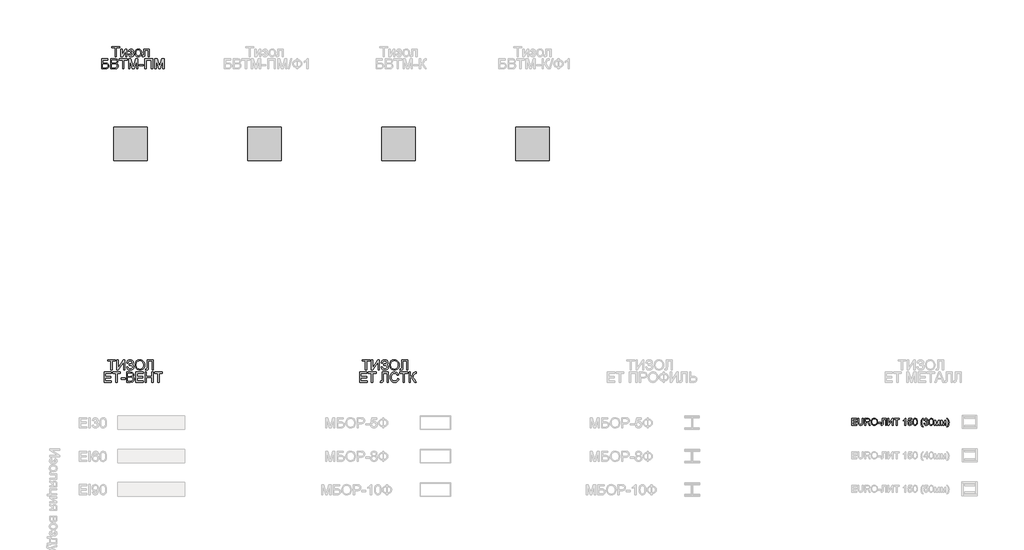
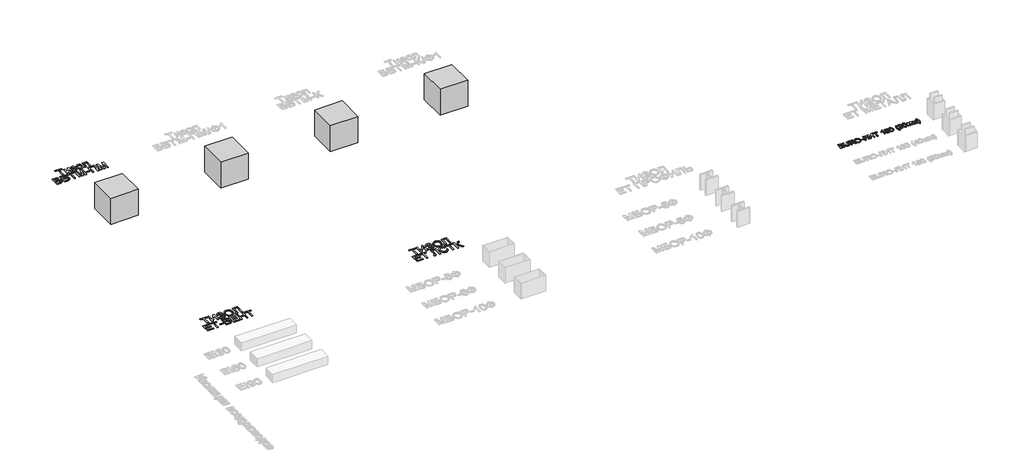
# One storey, part 17 of 35: 8 proxies.
"""IFC4 building model written with IfcOpenShell, lengths in millimetres."""

from ifc_helpers import new_model, si_unit, origin, origin_with_axes, place, context, project, spatial, polyline, outline, extrude, transform, mapped, element, save
from components import generic_models_0168a45e

model = new_model("IFC4")

# Units and contexts
model_context = context("Model", 3, world=origin())
ifc_project = project(units=[si_unit("LENGTHUNIT", "METRE", prefix="MILLI")], contexts=[model_context])

# Site, building, storey
site = spatial("IfcSite", under=ifc_project)
building = spatial("IfcBuilding", under=site)
storey = spatial("IfcBuildingStorey", under=building, Name="Этаж 01", Elevation=0.0)

# Proxies
placement = place(None, origin())
element("IfcBuildingElementProxy", 1, Name="600 мм Arial", ObjectType="600 мм Arial", at=placement, inside=storey, context=model_context, shape_type="SweptSolid", body=[
    extrude(outline(polyline([(1437.6102066, -38214.5066797), (1437.6102066, -37950.8088656), (1338.7235263, -37950.8088656), (1338.7235263, -37913.1377493), (1574.1680032, -37913.1377493), (1574.1680032, -37950.8088656), (1475.2813229, -37950.8088656), (1475.2813229, -38214.5066797), (1437.6102066, -38214.5066797)])), origin_with_axes(), (0.0, 0.0, 1.0), 20.0),
    extrude(outline(polyline([(1611.8391195, -37993.1888714), (1649.5102358, -37993.1888714), (1649.5102358, -38161.9731308), (1742.0693458, -37993.1888714), (1790.776922, -37993.1888714), (1790.776922, -38214.5066797), (1753.1058056, -38214.5066797), (1753.1058056, -38046.7524899), (1661.1353069, -38214.5066797), (1611.8391195, -38214.5066797), (1611.8391195, -37993.1888714)])), origin_with_axes(), (0.0, 0.0, 1.0), 20.0),
    extrude(outline(polyline([(1899.0813813, -38115.6199994), (1899.0813813, -38077.9488831), (1928.8062465, -38076.4773551), (1943.8158319, -38068.6414686), (1949.1133327, -38061.2930258), (1950.8791663, -38052.2707199), (1948.5155244, -38041.5561567), (1941.424599, -38033.2512207), (1930.5996713, -38027.9261288), (1917.0340227, -38026.1510982), (1903.3212213, -38027.9169318), (1891.834106, -38033.2144325), (1882.5726768, -38042.0436004), (1875.5369336, -38054.4044354), (1833.1569278, -38049.6955459), (1844.3957227, -38022.9137366), (1861.4838414, -38003.7838729), (1884.4212838, -37992.3059546), (1913.2080499, -37988.4799819), (1944.6987487, -37993.1428862), (1968.537502, -38007.131599), (1983.5470874, -38027.595035), (1988.5502826, -38051.6821087), (1986.7706534, -38064.0429437), (1981.431766, -38075.0794036), (1972.5336202, -38084.7914882), (1960.0762161, -38093.1791977), (1974.616752, -38103.6454405), (1984.9818272, -38116.650069), (1991.1898359, -38132.2298715), (1993.2591721, -38150.4216362), (1988.0076566, -38178.1507416), (1972.2531102, -38200.1224937), (1947.0623906, -38214.4423004), (1913.5023555, -38219.2155693), (1880.6780845, -38214.8009853), (1855.5609413, -38201.5572335), (1838.1509259, -38179.4843138), (1828.4480383, -38148.5822262), (1870.8280441, -38143.8733367), (1877.1740085, -38159.802627), (1887.8241923, -38171.6852155), (1901.5461907, -38179.0796436), (1917.1075991, -38181.544453), (1932.2643373, -38179.1808111), (1944.6251723, -38172.0898857), (1952.8473349, -38161.3201403), (1955.5880558, -38147.9200386), (1953.8866016, -38137.306643), (1948.7822389, -38128.1279873), (1934.2876883, -38117.5329858), (1906.4390212, -38115.3992702), (1899.0813813, -38115.6199994)])), origin_with_axes(), (0.0, 0.0, 1.0), 20.0),
    extrude(outline(polyline([(2030.9302884, -38103.8477756), (2032.967435, -38075.1851696), (2039.0788746, -38050.4864922), (2049.2646073, -38029.7517432), (2063.5246332, -38012.9809228), (2077.881228, -38002.2617611), (2093.727745, -37994.6052171), (2111.064184, -37990.0112907), (2129.8905451, -37988.4799819), (2150.6735786, -37990.3446838), (2169.4654507, -37995.9387893), (2186.2661616, -38005.2622987), (2201.0757112, -38018.3152117), (2213.162934, -38034.6560701), (2221.7966646, -38053.8434154), (2226.9769029, -38075.8772476), (2228.703649, -38100.7575668), (2225.6502285, -38138.8149592), (2216.4899668, -38167.7856663), (2201.4895784, -38189.481507), (2180.9157778, -38205.7143), (2156.4792163, -38215.840252), (2129.8905451, -38219.2155693), (2108.804009, -38217.3577652), (2089.8373929, -38211.784353), (2072.9906968, -38202.4953326), (2058.2639206, -38189.4907041), (2046.3054565, -38172.9911966), (2037.7636965, -38153.2175393), (2032.6386404, -38130.1697323), (2030.9302884, -38103.8477756)]), holes=[polyline([(2068.6014047, -38103.7741992), (2072.9608064, -38137.8676631), (2086.0390113, -38162.1570718), (2105.720698, -38176.6976077), (2129.8905451, -38181.544453), (2153.9500276, -38176.6700165), (2173.5949261, -38162.0467072), (2186.6731311, -38137.4354017), (2191.0325327, -38102.5969768), (2186.6455399, -38069.4967943), (2173.4845615, -38045.5384793), (2153.8120718, -38030.9979435), (2129.8905451, -38026.1510982), (2105.720698, -38030.9795494), (2086.0390113, -38045.4649029), (2072.9608064, -38069.6991294), (2068.6014047, -38103.7741992)])]), origin_with_axes(), (0.0, 0.0, 1.0), 20.0),
    extrude(outline(polyline([(2289.919213, -37993.1888714), (2459.4392364, -37993.1888714), (2459.4392364, -38214.2859505), (2421.7681201, -38214.2859505), (2421.7681201, -38030.8599877), (2327.5903293, -38030.8599877), (2327.5903293, -38136.4421204), (2325.0519435, -38185.1496965), (2320.2970688, -38196.1769593), (2311.1092159, -38205.7143), (2297.1664883, -38212.3085848), (2278.1469892, -38214.5066797), (2247.5392072, -38212.5936934), (2247.5392072, -38176.8355634), (2264.3882025, -38176.8355634), (2281.4211389, -38174.5179069), (2288.2269558, -38167.1602669), (2289.919213, -38134.3084048), (2289.919213, -37993.1888714)])), origin_with_axes(), (0.0, 0.0, 1.0), 20.0),
    extrude(outline(polyline([(1032.6457063, -38279.0622028), (1221.0012878, -38279.0622028), (1221.0012878, -38316.7333191), (1070.3168226, -38316.7333191), (1070.3168226, -38406.2022203), (1140.8765893, -38406.2022203), (1175.9541375, -38408.1152067), (1203.0486465, -38413.8541658), (1223.8523733, -38424.9090198), (1240.0575752, -38442.7696907), (1250.4870297, -38465.7623154), (1253.9635146, -38492.2130308), (1251.4895082, -38514.4239063), (1244.0674889, -38535.1448597), (1231.734245, -38553.2906391), (1214.5265647, -38567.7759926), (1187.9838788, -38577.2673481), (1147.645618, -38580.4311333), (1032.6457063, -38580.4311333), (1032.6457063, -38279.0622028)]), holes=[polyline([(1070.3168226, -38542.760017), (1151.0301323, -38542.760017), (1179.5593811, -38539.6514141), (1199.9584377, -38530.3256055), (1212.2089081, -38514.7825912), (1216.2923983, -38493.0223712), (1213.9563476, -38476.8171693), (1206.9481956, -38463.5182352), (1195.77378, -38453.6589977), (1180.9389385, -38447.7728858), (1124.1747467, -38443.8733367), (1070.3168226, -38443.8733367), (1070.3168226, -38542.760017)])]), origin_with_axes(), (0.0, 0.0, 1.0), 20.0),
    extrude(outline(polyline([(1305.7612995, -38580.4311333), (1305.7612995, -38279.0622028), (1420.7612112, -38279.0622028), (1452.3898657, -38281.2786918), (1477.0839447, -38287.9281589), (1496.0114733, -38299.1761509), (1510.340477, -38315.1882147), (1519.362783, -38334.0237729), (1522.3702183, -38353.7422478), (1519.8410296, -38371.8880272), (1512.2534634, -38388.9485548), (1499.5523375, -38403.8753667), (1481.6824696, -38415.6199994), (1503.0288224, -38426.7668239), (1518.8017629, -38443.7261839), (1528.5414387, -38465.3760393), (1531.7879973, -38490.59435), (1529.5715083, -38511.609609), (1522.9220413, -38531.0981577), (1512.9984244, -38547.6712416), (1500.9594862, -38559.9401061), (1486.2166152, -38568.8244563), (1468.1812004, -38575.2439971), (1419.8782944, -38580.4311333), (1305.7612995, -38580.4311333)]), holes=[polyline([(1343.4324158, -38401.4933308), (1412.2263489, -38401.4933308), (1452.3990628, -38398.2559693), (1466.4613521, -38392.67336), (1476.5689099, -38384.3132416), (1482.6665539, -38373.3043729), (1484.699102, -38359.7755126), (1482.8045097, -38346.6421253), (1477.1207329, -38335.2009953), (1467.9052889, -38326.2706598), (1455.4156951, -38320.6696565), (1407.0024246, -38316.7333191), (1343.4324158, -38316.7333191), (1343.4324158, -38401.4933308)]), polyline([(1343.4324158, -38542.760017), (1420.6876348, -38542.760017), (1448.6466664, -38541.288489), (1472.3014787, -38533.0847205), (1487.9732517, -38516.3460897), (1492.5809737, -38504.5186836), (1494.116881, -38490.962232), (1492.3142593, -38475.2168826), (1486.9063939, -38461.6788252), (1477.4610237, -38451.0930208), (1463.5458872, -38444.2044304), (1443.8366094, -38440.4244429), (1417.0088149, -38439.1644471), (1343.4324158, -38439.1644471), (1343.4324158, -38542.760017)])]), origin_with_axes(), (0.0, 0.0, 1.0), 20.0),
    extrude(outline(polyline([(1658.9280149, -38580.4311333), (1658.9280149, -38316.7333191), (1560.0413346, -38316.7333191), (1560.0413346, -38279.0622028), (1795.4858115, -38279.0622028), (1795.4858115, -38316.7333191), (1696.5991312, -38316.7333191), (1696.5991312, -38580.4311333), (1658.9280149, -38580.4311333)])), origin_with_axes(), (0.0, 0.0, 1.0), 20.0),
    extrude(outline(polyline([(1837.8658173, -38580.4311333), (1837.8658173, -38279.0622028), (1902.6866249, -38279.0622028), (1964.3436473, -38491.4772668), (1976.7780587, -38535.8438354), (1990.2425397, -38487.7984469), (2050.8694925, -38279.0622028), (2115.6903001, -38279.0622028), (2115.6903001, -38580.4311333), (2078.0191838, -38580.4311333), (2078.0191838, -38316.7333191), (2002.3090692, -38580.4311333), (1951.2470482, -38580.4311333), (1875.5369336, -38316.7333191), (1875.5369336, -38580.4311333), (1837.8658173, -38580.4311333)])), origin_with_axes(), (0.0, 0.0, 1.0), 20.0),
    extrude(outline(polyline([(2158.0703059, -38490.962232), (2158.0703059, -38453.2911157), (2275.7925444, -38453.2911157), (2275.7925444, -38490.962232), (2158.0703059, -38490.962232)])), origin_with_axes(), (0.0, 0.0, 1.0), 20.0),
    extrude(outline(polyline([(2322.8814398, -38279.0622028), (2558.3259167, -38279.0622028), (2558.3259167, -38580.4311333), (2520.6548004, -38580.4311333), (2520.6548004, -38316.7333191), (2360.5525561, -38316.7333191), (2360.5525561, -38580.4311333), (2322.8814398, -38580.4311333), (2322.8814398, -38279.0622028)])), origin_with_axes(), (0.0, 0.0, 1.0), 20.0),
    extrude(outline(polyline([(2624.2503702, -38580.4311333), (2624.2503702, -38279.0622028), (2689.0711778, -38279.0622028), (2750.7282002, -38491.4772668), (2763.1626116, -38535.8438354), (2776.6270926, -38487.7984469), (2837.2540454, -38279.0622028), (2902.074853, -38279.0622028), (2902.074853, -38580.4311333), (2864.4037367, -38580.4311333), (2864.4037367, -38316.7333191), (2788.6936221, -38580.4311333), (2737.6316011, -38580.4311333), (2661.9214865, -38316.7333191), (2661.9214865, -38580.4311333), (2624.2503702, -38580.4311333)])), origin_with_axes(), (0.0, 0.0, 1.0), 20.0),
])
element("IfcBuildingElementProxy", 2, Name="600 мм Arial", ObjectType="600 мм Arial", at=placement, inside=storey, context=model_context, shape_type="SweptSolid", body=[
    extrude(outline(polyline([(1312.8246338, -47580.4053349), (1312.8246338, -47316.7075208), (1213.9379535, -47316.7075208), (1213.9379535, -47279.0364045), (1449.3824304, -47279.0364045), (1449.3824304, -47316.7075208), (1350.4957501, -47316.7075208), (1350.4957501, -47580.4053349), (1312.8246338, -47580.4053349)])), origin_with_axes(), (0.0, 0.0, 1.0), 20.0),
    extrude(outline(polyline([(1491.7624363, -47279.0364045), (1529.4335526, -47279.0364045), (1529.4335526, -47517.7182429), (1687.1813521, -47279.0364045), (1727.2069132, -47279.0364045), (1727.2069132, -47580.4053349), (1689.5357969, -47580.4053349), (1689.5357969, -47342.385684), (1532.1558793, -47580.4053349), (1491.7624363, -47580.4053349), (1491.7624363, -47279.0364045)])), origin_with_axes(), (0.0, 0.0, 1.0), 20.0),
    extrude(outline(polyline([(1779.0046981, -47495.6453232), (1816.6758144, -47486.2275442), (1824.6312626, -47506.6174037), (1839.8155919, -47527.0256574), (1861.6769795, -47542.3387455), (1889.6636023, -47547.4431081), (1918.018107, -47543.6079383), (1939.6587654, -47532.102429), (1953.3715668, -47515.1706601), (1957.9425006, -47495.056712), (1952.9485025, -47473.9862708), (1937.9665082, -47457.7166895), (1914.3760753, -47447.3148261), (1883.5567611, -47443.8475383), (1863.7647098, -47443.8475383), (1863.7647098, -47406.176422), (1906.402233, -47403.1230014), (1920.2989754, -47397.696742), (1932.4850665, -47387.5248048), (1940.9831406, -47374.1247032), (1943.8158319, -47359.0139502), (1940.0450415, -47341.272841), (1928.7326701, -47326.0149353), (1910.9823639, -47315.5027072), (1887.8977687, -47311.9986312), (1867.0296625, -47314.6933669), (1849.4541002, -47322.7775737), (1835.9896192, -47335.3131527), (1827.4547569, -47351.3620047), (1821.384704, -47377.9230848), (1783.7135876, -47368.5053057), (1795.4168336, -47327.3025222), (1804.8311638, -47311.1157144), (1816.6206321, -47297.8719626), (1830.7852386, -47287.5712668), (1847.3249831, -47280.2136269), (1866.2398658, -47275.7990429), (1887.5298867, -47274.3275149), (1908.0416072, -47275.8565245), (1926.313846, -47280.4435531), (1942.3466032, -47288.0886008), (1956.1398788, -47298.7916676), (1967.2292217, -47311.541078), (1975.1501809, -47325.3251565), (1979.9027564, -47340.1439031), (1981.4869483, -47355.9973179), (1979.0221389, -47375.8215589), (1971.6277108, -47393.2821581), (1959.3036639, -47408.3791154), (1942.0499984, -47421.112431), (1963.000878, -47430.7601363), (1980.2361495, -47447.0481117), (1991.76925, -47468.5784054), (1995.6136169, -47493.9530661), (1993.7696084, -47512.5839898), (1988.2375829, -47529.6284225), (1979.0175404, -47545.0863641), (1966.1094809, -47558.9578146), (1950.1571978, -47570.4012439), (1931.8044848, -47578.575122), (1911.0513418, -47583.4794488), (1887.8977687, -47585.1142245), (1849.6932235, -47579.5224181), (1833.3362703, -47572.5326602), (1818.80953, -47562.7469991), (1806.1130026, -47550.1654349), (1795.2466882, -47534.7879675), (1779.0046981, -47495.6453232)])), origin_with_axes(), (0.0, 0.0, 1.0), 20.0),
    extrude(outline(polyline([(2033.2847332, -47433.6939952), (2035.7955278, -47398.345134), (2043.3279116, -47367.0521718), (2055.8818847, -47339.8151086), (2073.457447, -47316.6339444), (2095.0015364, -47298.1248815), (2119.4610905, -47284.9041223), (2146.8361095, -47276.9716668), (2177.1265933, -47274.3275149), (2216.6555137, -47279.2939219), (2252.1009439, -47294.1931427), (2281.5315035, -47317.9767137), (2303.015812, -47349.5961711), (2316.1491993, -47387.5248048), (2320.526995, -47430.2359045), (2315.919273, -47473.5172212), (2302.096107, -47511.9792838), (2279.8208522, -47543.6539236), (2249.8568637, -47566.5729719), (2214.7149361, -47580.4789113), (2176.9058641, -47585.1142245), (2136.7699384, -47579.9914677), (2101.1221731, -47564.6231973), (2071.7651899, -47540.3981679), (2050.5016105, -47508.7051341), (2037.5889525, -47472.2388313), (2033.2847332, -47433.6939952)]), holes=[polyline([(2070.9558495, -47434.0618772), (2072.8389454, -47459.0364662), (2078.4882333, -47481.2059549), (2087.9037131, -47500.5703434), (2101.0853849, -47517.1296317), (2117.108945, -47530.3917777), (2135.0500901, -47539.864739), (2154.90882, -47545.5485159), (2176.6851349, -47547.4431081), (2198.8339303, -47545.5301218), (2218.927185, -47539.7911626), (2236.9648991, -47530.2262308), (2252.9470725, -47516.8353262), (2266.0321752, -47499.9265499), (2275.3786771, -47479.8080033), (2280.9865783, -47456.4796863), (2282.8558787, -47429.9415989), (2279.6553053, -47396.593096), (2270.0535853, -47367.7695417), (2254.2990388, -47344.1975029), (2232.6399864, -47326.6035464), (2206.5111677, -47315.64986), (2177.3473225, -47311.9986312), (2156.327465, -47313.757567), (2136.8251207, -47319.0343744), (2118.8402897, -47327.8290533), (2102.3729719, -47340.1416039), (2088.6279808, -47356.5652357), (2078.8101301, -47377.6931585), (2072.9194196, -47403.5253724), (2070.9558495, -47434.0618772)])]), origin_with_axes(), (0.0, 0.0, 1.0), 20.0),
    extrude(outline(polyline([(2395.8692276, -47279.0364045), (2579.5159196, -47279.0364045), (2579.5159196, -47580.4053349), (2541.8448033, -47580.4053349), (2541.8448033, -47316.7075208), (2433.5403439, -47316.7075208), (2433.5403439, -47470.4821948), (2429.1625482, -47539.0921869), (2422.3843224, -47558.479568), (2410.8052366, -47573.0109068), (2394.9495226, -47582.088395), (2375.3414123, -47585.1142245), (2344.0714427, -47580.4053349), (2348.7803322, -47542.7342186), (2366.80655, -47547.4431081), (2379.5444641, -47544.9139194), (2388.6219523, -47537.3263533), (2394.0574088, -47520.3577963), (2395.8692276, -47489.6856349), (2395.8692276, -47279.0364045)])), origin_with_axes(), (0.0, 0.0, 1.0), 20.0),
    extrude(outline(polyline([(1107.9879389, -47946.3297885), (1107.9879389, -47644.960858), (1324.5968577, -47644.960858), (1324.5968577, -47682.6319743), (1145.6590552, -47682.6319743), (1145.6590552, -47772.1008755), (1315.1790786, -47772.1008755), (1315.1790786, -47809.7719918), (1145.6590552, -47809.7719918), (1145.6590552, -47908.6586721), (1329.3057472, -47908.6586721), (1329.3057472, -47946.3297885), (1107.9879389, -47946.3297885)])), origin_with_axes(), (0.0, 0.0, 1.0), 20.0),
    extrude(outline(polyline([(1461.1546543, -47946.3297885), (1461.1546543, -47682.6319743), (1362.267974, -47682.6319743), (1362.267974, -47644.960858), (1597.7124509, -47644.960858), (1597.7124509, -47682.6319743), (1498.8257706, -47682.6319743), (1498.8257706, -47946.3297885), (1461.1546543, -47946.3297885)])), origin_with_axes(), (0.0, 0.0, 1.0), 20.0),
    extrude(outline(polyline([(1616.548009, -47856.8608872), (1616.548009, -47819.1897709), (1734.2702475, -47819.1897709), (1734.2702475, -47856.8608872), (1616.548009, -47856.8608872)])), origin_with_axes(), (0.0, 0.0, 1.0), 20.0),
    extrude(outline(polyline([(1781.3591429, -47946.3297885), (1781.3591429, -47644.960858), (1896.3590546, -47644.960858), (1927.9877091, -47647.177347), (1952.681788, -47653.8268141), (1971.6093167, -47665.0748061), (1985.9383204, -47681.0868699), (1994.9606263, -47699.9224281), (1997.9680616, -47719.640903), (1995.4388729, -47737.7866824), (1987.8513068, -47754.84721), (1975.1501809, -47769.7740219), (1957.280313, -47781.5186546), (1978.6266657, -47792.6654791), (1994.3996063, -47809.624839), (2004.1392821, -47831.2746945), (2007.3858407, -47856.4930052), (2005.1693517, -47877.5082642), (1998.5198846, -47896.9968129), (1988.5962678, -47913.5698968), (1976.5573295, -47925.8387613), (1961.8144586, -47934.7231115), (1943.7790437, -47941.1426523), (1895.4761378, -47946.3297885), (1781.3591429, -47946.3297885)]), holes=[polyline([(1819.0302592, -47767.391986), (1887.8241923, -47767.391986), (1927.9969062, -47764.1546244), (1942.0591954, -47758.5720152), (1952.1667532, -47750.2118968), (1958.2643973, -47739.2030281), (1960.2969453, -47725.6741677), (1958.4023531, -47712.5407805), (1952.7185762, -47701.0996505), (1943.5031323, -47692.169315), (1931.0135385, -47686.5683117), (1882.6002679, -47682.6319743), (1819.0302592, -47682.6319743), (1819.0302592, -47767.391986)]), polyline([(1819.0302592, -47908.6586721), (1896.2854782, -47908.6586721), (1924.2445098, -47907.1871442), (1947.8993221, -47898.9833757), (1963.5710951, -47882.2447449), (1968.1788171, -47870.4173387), (1969.7147244, -47856.8608872), (1967.9121026, -47841.1155378), (1962.5042373, -47827.5774804), (1953.0588671, -47816.991676), (1939.1437306, -47810.1030856), (1919.4344527, -47806.3230981), (1892.6066582, -47805.0631023), (1819.0302592, -47805.0631023), (1819.0302592, -47908.6586721)])]), origin_with_axes(), (0.0, 0.0, 1.0), 20.0),
    extrude(outline(polyline([(2059.1836256, -47946.3297885), (2059.1836256, -47644.960858), (2275.7925444, -47644.960858), (2275.7925444, -47682.6319743), (2096.8547419, -47682.6319743), (2096.8547419, -47772.1008755), (2266.3747653, -47772.1008755), (2266.3747653, -47809.7719918), (2096.8547419, -47809.7719918), (2096.8547419, -47908.6586721), (2280.5014339, -47908.6586721), (2280.5014339, -47946.3297885), (2059.1836256, -47946.3297885)])), origin_with_axes(), (0.0, 0.0, 1.0), 20.0),
    extrude(outline(polyline([(2337.0081084, -47946.3297885), (2337.0081084, -47644.960858), (2374.6792247, -47644.960858), (2374.6792247, -47767.391986), (2534.781469, -47767.391986), (2534.781469, -47644.960858), (2572.4525853, -47644.960858), (2572.4525853, -47946.3297885), (2534.781469, -47946.3297885), (2534.781469, -47805.0631023), (2374.6792247, -47805.0631023), (2374.6792247, -47946.3297885), (2337.0081084, -47946.3297885)])), origin_with_axes(), (0.0, 0.0, 1.0), 20.0),
    extrude(outline(polyline([(2713.7192715, -47946.3297885), (2713.7192715, -47682.6319743), (2614.8325911, -47682.6319743), (2614.8325911, -47644.960858), (2850.2770681, -47644.960858), (2850.2770681, -47682.6319743), (2751.3903878, -47682.6319743), (2751.3903878, -47946.3297885), (2713.7192715, -47946.3297885)])), origin_with_axes(), (0.0, 0.0, 1.0), 20.0),
])
element("IfcBuildingElementProxy", 3, Name="600 мм Arial", ObjectType="600 мм Arial", at=placement, inside=storey, context=model_context, shape_type="SweptSolid", body=[
    extrude(outline(polyline([(8912.8246338, -47580.4053349), (8912.8246338, -47316.7075208), (8813.9379535, -47316.7075208), (8813.9379535, -47279.0364045), (9049.3824304, -47279.0364045), (9049.3824304, -47316.7075208), (8950.4957501, -47316.7075208), (8950.4957501, -47580.4053349), (8912.8246338, -47580.4053349)])), origin_with_axes(), (0.0, 0.0, 1.0), 20.0),
    extrude(outline(polyline([(9091.7624363, -47279.0364045), (9129.4335526, -47279.0364045), (9129.4335526, -47517.7182429), (9287.1813521, -47279.0364045), (9327.2069132, -47279.0364045), (9327.2069132, -47580.4053349), (9289.5357969, -47580.4053349), (9289.5357969, -47342.385684), (9132.1558793, -47580.4053349), (9091.7624363, -47580.4053349), (9091.7624363, -47279.0364045)])), origin_with_axes(), (0.0, 0.0, 1.0), 20.0),
    extrude(outline(polyline([(9379.0046981, -47495.6453232), (9416.6758144, -47486.2275442), (9424.6312626, -47506.6174037), (9439.8155919, -47527.0256574), (9461.6769795, -47542.3387455), (9489.6636023, -47547.4431081), (9518.018107, -47543.6079383), (9539.6587654, -47532.102429), (9553.3715668, -47515.1706601), (9557.9425006, -47495.056712), (9552.9485025, -47473.9862708), (9537.9665082, -47457.7166895), (9514.3760753, -47447.3148261), (9483.5567611, -47443.8475383), (9463.7647098, -47443.8475383), (9463.7647098, -47406.176422), (9506.402233, -47403.1230014), (9520.2989754, -47397.696742), (9532.4850665, -47387.5248048), (9540.9831406, -47374.1247032), (9543.8158319, -47359.0139502), (9540.0450415, -47341.272841), (9528.7326701, -47326.0149353), (9510.9823639, -47315.5027072), (9487.8977687, -47311.9986312), (9467.0296625, -47314.6933669), (9449.4541002, -47322.7775737), (9435.9896192, -47335.3131527), (9427.4547569, -47351.3620047), (9421.384704, -47377.9230848), (9383.7135876, -47368.5053057), (9395.4168336, -47327.3025222), (9404.8311638, -47311.1157144), (9416.6206321, -47297.8719626), (9430.7852386, -47287.5712668), (9447.3249831, -47280.2136269), (9466.2398658, -47275.7990429), (9487.5298867, -47274.3275149), (9508.0416072, -47275.8565245), (9526.313846, -47280.4435531), (9542.3466032, -47288.0886008), (9556.1398788, -47298.7916676), (9567.2292217, -47311.541078), (9575.1501809, -47325.3251565), (9579.9027564, -47340.1439031), (9581.4869483, -47355.9973179), (9579.0221389, -47375.8215589), (9571.6277108, -47393.2821581), (9559.3036639, -47408.3791154), (9542.0499984, -47421.112431), (9563.000878, -47430.7601363), (9580.2361495, -47447.0481117), (9591.76925, -47468.5784054), (9595.6136169, -47493.9530661), (9593.7696084, -47512.5839898), (9588.2375829, -47529.6284225), (9579.0175404, -47545.0863641), (9566.1094809, -47558.9578146), (9550.1571978, -47570.4012439), (9531.8044848, -47578.575122), (9511.0513418, -47583.4794488), (9487.8977687, -47585.1142245), (9449.6932235, -47579.5224181), (9433.3362703, -47572.5326602), (9418.80953, -47562.7469991), (9406.1130026, -47550.1654349), (9395.2466882, -47534.7879675), (9379.0046981, -47495.6453232)])), origin_with_axes(), (0.0, 0.0, 1.0), 20.0),
    extrude(outline(polyline([(9633.2847332, -47433.6939952), (9635.7955278, -47398.345134), (9643.3279116, -47367.0521718), (9655.8818847, -47339.8151086), (9673.457447, -47316.6339444), (9695.0015364, -47298.1248815), (9719.4610905, -47284.9041223), (9746.8361095, -47276.9716668), (9777.1265933, -47274.3275149), (9816.6555137, -47279.2939219), (9852.1009439, -47294.1931427), (9881.5315035, -47317.9767137), (9903.015812, -47349.5961711), (9916.1491993, -47387.5248048), (9920.526995, -47430.2359045), (9915.919273, -47473.5172212), (9902.096107, -47511.9792838), (9879.8208522, -47543.6539236), (9849.8568637, -47566.5729719), (9814.7149361, -47580.4789113), (9776.9058641, -47585.1142245), (9736.7699384, -47579.9914677), (9701.1221731, -47564.6231973), (9671.7651899, -47540.3981679), (9650.5016105, -47508.7051341), (9637.5889525, -47472.2388313), (9633.2847332, -47433.6939952)]), holes=[polyline([(9670.9558495, -47434.0618772), (9672.8389454, -47459.0364662), (9678.4882333, -47481.2059549), (9687.9037131, -47500.5703434), (9701.0853849, -47517.1296317), (9717.108945, -47530.3917777), (9735.0500901, -47539.864739), (9754.90882, -47545.5485159), (9776.6851349, -47547.4431081), (9798.8339303, -47545.5301218), (9818.927185, -47539.7911626), (9836.9648991, -47530.2262308), (9852.9470725, -47516.8353262), (9866.0321752, -47499.9265499), (9875.3786771, -47479.8080033), (9880.9865783, -47456.4796863), (9882.8558787, -47429.9415989), (9879.6553053, -47396.593096), (9870.0535853, -47367.7695417), (9854.2990388, -47344.1975029), (9832.6399864, -47326.6035464), (9806.5111677, -47315.64986), (9777.3473225, -47311.9986312), (9756.327465, -47313.757567), (9736.8251207, -47319.0343744), (9718.8402897, -47327.8290533), (9702.3729719, -47340.1416039), (9688.6279808, -47356.5652357), (9678.8101301, -47377.6931585), (9672.9194196, -47403.5253724), (9670.9558495, -47434.0618772)])]), origin_with_axes(), (0.0, 0.0, 1.0), 20.0),
    extrude(outline(polyline([(9995.8692276, -47279.0364045), (10179.5159196, -47279.0364045), (10179.5159196, -47580.4053349), (10141.8448033, -47580.4053349), (10141.8448033, -47316.7075208), (10033.5403439, -47316.7075208), (10033.5403439, -47470.4821948), (10029.1625482, -47539.0921869), (10022.3843224, -47558.479568), (10010.8052366, -47573.0109068), (9994.9495226, -47582.088395), (9975.3414123, -47585.1142245), (9944.0714427, -47580.4053349), (9948.7803322, -47542.7342186), (9966.80655, -47547.4431081), (9979.5444641, -47544.9139194), (9988.6219523, -47537.3263533), (9994.0574088, -47520.3577963), (9995.8692276, -47489.6856349), (9995.8692276, -47279.0364045)])), origin_with_axes(), (0.0, 0.0, 1.0), 20.0),
    extrude(outline(polyline([(8738.5957209, -47946.3297885), (8738.5957209, -47644.960858), (8955.2046397, -47644.960858), (8955.2046397, -47682.6319743), (8776.2668372, -47682.6319743), (8776.2668372, -47772.1008755), (8945.7868606, -47772.1008755), (8945.7868606, -47809.7719918), (8776.2668372, -47809.7719918), (8776.2668372, -47908.6586721), (8959.9135292, -47908.6586721), (8959.9135292, -47946.3297885), (8738.5957209, -47946.3297885)])), origin_with_axes(), (0.0, 0.0, 1.0), 20.0),
    extrude(outline(polyline([(9091.7624363, -47946.3297885), (9091.7624363, -47682.6319743), (8992.875756, -47682.6319743), (8992.875756, -47644.960858), (9228.3202329, -47644.960858), (9228.3202329, -47682.6319743), (9129.4335526, -47682.6319743), (9129.4335526, -47946.3297885), (9091.7624363, -47946.3297885)])), origin_with_axes(), (0.0, 0.0, 1.0), 20.0),
    extrude(outline(polyline([(9411.9669249, -47644.960858), (9595.6136169, -47644.960858), (9595.6136169, -47946.3297885), (9557.9425006, -47946.3297885), (9557.9425006, -47682.6319743), (9449.6380412, -47682.6319743), (9449.6380412, -47836.4066483), (9445.2602454, -47905.0166404), (9438.4820197, -47924.4040215), (9426.9029339, -47938.9353603), (9411.0472199, -47948.0128486), (9391.4391095, -47951.038678), (9360.16914, -47946.3297885), (9364.8780295, -47908.6586721), (9382.9042473, -47913.3675617), (9395.6421613, -47910.838373), (9404.7196496, -47903.2508068), (9410.155106, -47886.2822498), (9411.9669249, -47855.6100884), (9411.9669249, -47644.960858)])), origin_with_axes(), (0.0, 0.0, 1.0), 20.0),
    extrude(outline(polyline([(9873.4380996, -47839.2025515), (9911.1092159, -47848.9146361), (9903.655007, -47872.3418214), (9893.7267917, -47892.8121552), (9881.3245699, -47910.3256374), (9866.4483417, -47924.8822681), (9849.4337994, -47936.3256974), (9830.6166354, -47944.4995755), (9809.9968496, -47949.4039024), (9787.574442, -47951.038678), (9743.879258, -47946.0906652), (9709.1787888, -47931.2466267), (9682.5809205, -47907.0215973), (9663.1935394, -47873.9306118), (9651.3569362, -47835.0270908), (9647.4114018, -47793.3644549), (9651.871971, -47749.4209505), (9665.2536786, -47711.4739227), (9686.8575487, -47680.728185), (9715.9846057, -47658.3885508), (9750.528725, -47644.7861141), (9788.3837823, -47640.2519685), (9829.6877333, -47646.1196863), (9847.6564695, -47653.4543336), (9863.8363796, -47663.7228398), (9877.9607489, -47676.6538919), (9889.7628632, -47691.976177), (9906.4003264, -47729.7944461), (9868.7292101, -47738.7707668), (9855.6693993, -47711.2991788), (9837.8271225, -47692.4544236), (9814.9816506, -47681.5559195), (9786.9122544, -47677.9230848), (9754.5570329, -47681.9513926), (9727.9775587, -47694.0363162), (9707.8084283, -47712.9086625), (9694.6842382, -47737.2992388), (9687.4829481, -47764.8719943), (9685.0825181, -47793.2908785), (9687.9244065, -47828.0925152), (9696.4500717, -47858.1852624), (9710.9814106, -47882.4194888), (9731.8403197, -47899.6455633), (9756.8470983, -47909.9370621), (9783.8220456, -47913.3675617), (9815.2667591, -47908.6954603), (9841.4691542, -47894.6791563), (9861.2520085, -47871.4658024), (9873.4380996, -47839.2025515)])), origin_with_axes(), (0.0, 0.0, 1.0), 20.0),
    extrude(outline(polyline([(10038.2492335, -47946.3297885), (10038.2492335, -47682.6319743), (9939.3625532, -47682.6319743), (9939.3625532, -47644.960858), (10174.8070301, -47644.960858), (10174.8070301, -47682.6319743), (10075.9203498, -47682.6319743), (10075.9203498, -47946.3297885), (10038.2492335, -47946.3297885)])), origin_with_axes(), (0.0, 0.0, 1.0), 20.0),
    extrude(outline(polyline([(10217.1870359, -47644.960858), (10254.8581522, -47644.960858), (10254.8581522, -47776.8097651), (10280.3615715, -47774.3173646), (10296.9806407, -47766.840163), (10310.4175305, -47749.2462066), (10326.3744121, -47716.4035415), (10347.1597448, -47674.281053), (10357.1845292, -47662.8675141), (10370.7041925, -47653.4221439), (10386.7530445, -47647.0761795), (10404.3653951, -47644.960858), (10429.0870651, -47645.4023164), (10429.0870651, -47683.0734327), (10420.772932, -47682.8527035), (10412.458799, -47682.6319743), (10395.2051334, -47684.8944486), (10383.0282393, -47691.6818714), (10372.5436025, -47705.9372987), (10360.661014, -47730.4566337), (10346.08369, -47760.9908393), (10333.9895694, -47777.6926819), (10307.9803123, -47793.2908785), (10322.571432, -47799.4988871), (10337.061384, -47810.3238148), (10365.7377856, -47845.8244274), (10429.0870651, -47946.3297885), (10385.3826841, -47946.3297885), (10331.8190656, -47861.422624), (10311.1349004, -47834.1901593), (10294.1111611, -47817.0928435), (10276.7011457, -47808.0705376), (10254.8581522, -47805.0631023), (10254.8581522, -47946.3297885), (10217.1870359, -47946.3297885), (10217.1870359, -47644.960858)])), origin_with_axes(), (0.0, 0.0, 1.0), 20.0),
])
element("IfcBuildingElementProxy", 4, Name="400 мм Arial", ObjectType="400 мм Arial", at=placement, inside=storey, context=model_context, shape_type="SweptSolid", body=[
    extrude(outline(polyline([(23432.9130067, -49230.4960856), (23432.9130067, -49029.5834653), (23577.3189525, -49029.5834653), (23577.3189525, -49054.6975429), (23458.0270842, -49054.6975429), (23458.0270842, -49114.343477), (23571.0404331, -49114.343477), (23571.0404331, -49139.4575546), (23458.0270842, -49139.4575546), (23458.0270842, -49205.3820081), (23580.4582122, -49205.3820081), (23580.4582122, -49230.4960856), (23432.9130067, -49230.4960856)])), origin_with_axes(), (0.0, 0.0, 1.0), 20.0),
    extrude(outline(polyline([(23749.9782356, -49029.5834653), (23775.0923131, -49029.5834653), (23775.0923131, -49145.4908193), (23773.3877932, -49172.6343792), (23768.2742335, -49193.5362079), (23758.7215643, -49209.661702), (23743.6997162, -49222.4762582), (23723.1719008, -49230.8455735), (23697.1013301, -49233.6353453), (23671.6009765, -49231.2073242), (23651.2141826, -49223.9232607), (23635.9348171, -49212.0345409), (23625.7567485, -49195.7925508), (23620.0361835, -49174.0078053), (23618.1293285, -49145.4908193), (23618.1293285, -49029.5834653), (23643.243406, -49029.5834653), (23643.243406, -49144.6079025), (23644.4819421, -49167.1774629), (23648.1975502, -49182.8921555), (23654.9297907, -49193.7753312), (23665.2182239, -49201.850341), (23678.633654, -49206.8535361), (23694.7468854, -49208.5212678), (23720.2901585, -49205.2225926), (23737.274044, -49195.3265669), (23746.8021877, -49176.0495504), (23749.9782356, -49144.6079025), (23749.9782356, -49029.5834653)])), origin_with_axes(), (0.0, 0.0, 1.0), 20.0),
    extrude(outline(polyline([(23819.0419488, -49230.4960856), (23819.0419488, -49029.5834653), (23905.616845, -49029.5834653), (23928.8853812, -49030.9384974), (23945.8140843, -49035.0035934), (23958.1871821, -49042.5083861), (23967.7889022, -49054.1825081), (23973.9509256, -49068.6586646), (23976.0049334, -49084.5695609), (23972.6020249, -49104.3616122), (23962.3932996, -49120.7691492), (23945.072189, -49132.7988905), (23920.3321248, -49139.4575546), (23934.6059462, -49150.1997088), (23954.9620833, -49176.0495504), (23988.4638703, -49230.4960856), (23959.2785653, -49230.4960856), (23933.1344182, -49188.8518438), (23914.2498091, -49161.2852196), (23900.9815318, -49148.262197), (23889.0376297, -49143.4797311), (23874.4695027, -49142.5968143), (23844.1560263, -49142.5968143), (23844.1560263, -49230.4960856), (23819.0419488, -49230.4960856)]), holes=[polyline([(23844.1560263, -49117.4827367), (23900.3683952, -49117.4827367), (23929.0386653, -49113.9265441), (23938.4687072, -49109.3034937), (23945.323575, -49102.5467277), (23950.8908559, -49085.5015286), (23948.2359741, -49073.2510582), (23940.2713289, -49063.379558), (23926.5677246, -49056.8680467), (23906.6959655, -49054.6975429), (23844.1560263, -49054.6975429), (23844.1560263, -49117.4827367)])]), origin_with_axes(), (0.0, 0.0, 1.0), 20.0),
    extrude(outline(polyline([(24010.53679, -49132.6885259), (24012.2106531, -49109.1226184), (24017.2322423, -49088.2606436), (24025.6015577, -49070.1026014), (24037.3185993, -49054.648492), (24051.6813255, -49042.3091167), (24067.9876949, -49033.4952772), (24086.2377076, -49028.2069736), (24106.4313634, -49026.4442057), (24132.783977, -49029.7551436), (24156.4142638, -49039.6879575), (24176.0346369, -49055.5436715), (24190.3575093, -49076.6233098), (24199.1131007, -49101.9090656), (24202.0316312, -49130.383132), (24198.9598166, -49159.2373432), (24189.7443726, -49184.8787182), (24174.8942027, -49205.9951448), (24154.9182104, -49221.2745103), (24131.4902587, -49230.5451366), (24106.2842106, -49233.6353453), (24079.5269268, -49230.2201742), (24055.76175, -49219.9746606), (24036.1904278, -49203.824641), (24022.0147083, -49182.6959517), (24013.4062696, -49158.3850832), (24010.53679, -49132.6885259)]), holes=[polyline([(24035.6508675, -49132.9337805), (24040.6724568, -49164.3631656), (24055.7372245, -49188.3122835), (24078.3803613, -49203.4690217), (24106.1370578, -49208.5212678), (24134.2984246, -49203.4199708), (24156.9783496, -49188.1160798), (24165.7017514, -49176.8435623), (24171.9327527, -49163.4311979), (24176.9175537, -49130.1869283), (24174.7838381, -49107.9545931), (24168.3826914, -49088.7388902), (24157.8796604, -49073.0241976), (24143.4402921, -49061.2948933), (24126.0210797, -49053.9924357), (24106.5785162, -49051.5582832), (24079.563715, -49056.2487786), (24056.5956158, -49070.3202649), (24047.4322884, -49081.2693528), (24040.8870546, -49095.3546347), (24035.6508675, -49132.9337805)])]), origin_with_axes(), (0.0, 0.0, 1.0), 20.0),
    extrude(outline(polyline([(24220.8671894, -49170.8501515), (24220.8671894, -49145.736074), (24299.3486817, -49145.736074), (24299.3486817, -49170.8501515), (24220.8671894, -49170.8501515)])), origin_with_axes(), (0.0, 0.0, 1.0), 20.0),
    extrude(outline(polyline([(24346.4375771, -49029.5834653), (24468.8687051, -49029.5834653), (24468.8687051, -49230.4960856), (24443.7546275, -49230.4960856), (24443.7546275, -49054.6975429), (24371.5516546, -49054.6975429), (24371.5516546, -49157.2139922), (24368.6331241, -49202.9539869), (24364.1143069, -49215.8789077), (24356.3949164, -49225.5664669), (24345.8244404, -49231.6181257), (24332.7523669, -49233.6353453), (24311.9057205, -49230.4960856), (24315.0449802, -49205.3820081), (24327.0624587, -49208.5212678), (24335.5544014, -49206.835142), (24341.6060602, -49201.7767646), (24345.2296979, -49190.4643932), (24346.4375771, -49170.0162856), (24346.4375771, -49029.5834653)])), origin_with_axes(), (0.0, 0.0, 1.0), 20.0),
    extrude(outline(polyline([(24512.8183408, -49029.5834653), (24537.9324183, -49029.5834653), (24537.9324183, -49188.704691), (24643.097618, -49029.5834653), (24669.7813254, -49029.5834653), (24669.7813254, -49230.4960856), (24644.6672478, -49230.4960856), (24644.6672478, -49071.8163184), (24539.7473028, -49230.4960856), (24512.8183408, -49230.4960856), (24512.8183408, -49029.5834653)])), origin_with_axes(), (0.0, 0.0, 1.0), 20.0),
    extrude(outline(polyline([(24763.9591161, -49230.4960856), (24763.9591161, -49054.6975429), (24698.0346626, -49054.6975429), (24698.0346626, -49029.5834653), (24854.9976472, -49029.5834653), (24854.9976472, -49054.6975429), (24789.0731937, -49054.6975429), (24789.0731937, -49230.4960856), (24763.9591161, -49230.4960856)])), origin_with_axes(), (0.0, 0.0, 1.0), 20.0),
    extrude(outline(polyline([(25046.4924884, -49230.4960856), (25021.3784109, -49230.4960856), (25021.3784109, -49073.9255085), (24997.5887085, -49090.8726057), (24971.1502558, -49103.5522718), (24971.1502558, -49079.8116204), (25007.9629808, -49056.3162237), (25021.4335932, -49042.741378), (25030.3056806, -49029.5834653), (25046.4924884, -49029.5834653), (25046.4924884, -49230.4960856)])), origin_with_axes(), (0.0, 0.0, 1.0), 20.0),
    extrude(outline(polyline([(25106.1384226, -49177.1286709), (25131.2525001, -49173.9894112), (25135.8632878, -49189.0664416), (25143.9076408, -49199.8637782), (25155.3487708, -49206.3568954), (25170.1498897, -49208.5212678), (25188.151582, -49205.5107668), (25201.6405885, -49196.4792638), (25210.0650862, -49182.4690912), (25212.8732521, -49164.5225812), (25210.2428958, -49147.6245349), (25202.3518271, -49134.6996141), (25189.1387321, -49126.4958456), (25170.5422972, -49123.7612561), (25148.493903, -49128.1267891), (25134.3917598, -49139.4575546), (25109.2776823, -49136.3182949), (25131.2525001, -49032.722725), (25228.5695506, -49032.722725), (25228.5695506, -49057.8368026), (25151.5595863, -49057.8368026), (25140.817432, -49113.1662547), (25158.7578106, -49102.2769476), (25177.5565806, -49098.6471786), (25201.0213205, -49103.1476017), (25220.5006721, -49116.6488709), (25233.6156653, -49137.2257371), (25237.9873297, -49162.9529513), (25234.0509923, -49188.0670289), (25222.2419803, -49209.5513374), (25211.8063943, -49220.0880909), (25199.6295003, -49227.6143434), (25185.7112981, -49232.1300948), (25170.0517879, -49233.6353453), (25145.3853001, -49229.766453), (25125.7342702, -49218.1597761), (25112.2636578, -49200.1642151), (25106.1384226, -49177.1286709)])), origin_with_axes(), (0.0, 0.0, 1.0), 20.0),
    extrude(outline(polyline([(25259.9621475, -49131.6584563), (25261.8076888, -49099.4994385), (25267.3443129, -49073.8519321), (25276.5168373, -49054.3235295), (25289.2700798, -49040.5218233), (25305.6960109, -49032.3180548), (25325.886601, -49029.5834653), (25341.3621703, -49031.2021461), (25355.2190588, -49036.0581885), (25366.8073416, -49043.96152), (25375.477094, -49054.7220684), (25387.2493178, -49084.4469336), (25391.8110546, -49131.6584563), (25389.9839073, -49163.633533), (25384.5024656, -49189.2197258), (25375.3851235, -49208.7665225), (25362.6502751, -49222.623411), (25346.1875558, -49230.8823617), (25325.886601, -49233.6353453), (25299.7915048, -49228.8528794), (25279.974928, -49214.5054816), (25271.2193365, -49199.3763345), (25264.9653426, -49180.525448), (25259.9621475, -49131.6584563)]), holes=[polyline([(25285.076225, -49131.6094053), (25288.019281, -49171.1138003), (25296.8484489, -49193.9776663), (25309.9940988, -49204.8853674), (25325.886601, -49208.5212678), (25341.7791032, -49204.8731047), (25354.9247532, -49193.9286153), (25363.7539211, -49171.0524866), (25366.696977, -49131.6094053), (25363.8520229, -49092.9940586), (25355.3171606, -49069.952383), (25342.1960362, -49058.5112529), (25325.5922954, -49054.6975429), (25309.8714715, -49058.0575318), (25297.2408563, -49068.1374984), (25288.1173829, -49092.6139139), (25285.076225, -49131.6094053)])]), origin_with_axes(), (0.0, 0.0, 1.0), 20.0),
    extrude(outline(polyline([(25548.7740392, -49287.0027601), (25529.3130816, -49259.6936533), (25513.1140111, -49228.0925899), (25502.1879159, -49193.7324116), (25498.5458841, -49158.1459599), (25501.2682109, -49126.937304), (25509.4351912, -49097.0775487), (25525.6465244, -49063.2569306), (25548.7740392, -49029.5834653), (25567.6095973, -49029.5834653), (25544.1142006, -49069.3637718), (25529.987532, -49107.9178049), (25523.6599616, -49158.2931127), (25526.4068139, -49190.4889187), (25534.6473706, -49222.6724619), (25548.3816317, -49254.8437424), (25567.6095973, -49287.0027601), (25548.7740392, -49287.0027601)])), origin_with_axes(), (0.0, 0.0, 1.0), 20.0),
    extrude(outline(polyline([(25586.4451555, -49177.1286709), (25611.559233, -49173.9894112), (25617.1816962, -49189.7715488), (25625.4161215, -49200.4278639), (25636.6671792, -49206.4979168), (25651.3395394, -49208.5212678), (25668.5564168, -49205.7376274), (25681.8492196, -49197.3867061), (25690.3472937, -49184.9277692), (25693.179985, -49169.8200819), (25690.3718191, -49155.4788155), (25681.9473214, -49143.8476131), (25669.1940789, -49136.1404853), (25653.3996786, -49133.5714427), (25635.7903938, -49136.3182949), (25638.5862969, -49111.2042173), (25642.6084734, -49111.4985229), (25657.654847, -49109.6959012), (25671.1070653, -49104.2880358), (25680.5984208, -49095.1400369), (25683.7622059, -49082.1170143), (25681.4690748, -49071.2706268), (25674.5896815, -49062.4721157), (25664.0927819, -49056.6411861), (25650.947132, -49054.6975429), (25637.7769565, -49056.6595802), (25627.0102768, -49062.5456921), (25619.1498649, -49072.3558787), (25614.6984927, -49086.0901398), (25589.5844152, -49082.9508801), (25596.9788433, -49060.3997138), (25610.136756, -49043.5629812), (25628.1384483, -49033.0783443), (25650.0642152, -49029.5834653), (25665.8524841, -49031.3063794), (25680.3531661, -49036.4751214), (25692.5791111, -49044.629839), (25701.543169, -49055.3106795), (25707.0430049, -49067.6163323), (25708.8762835, -49080.6454863), (25707.1349754, -49092.7855921), (25701.911051, -49103.7975265), (25693.2780869, -49113.1785174), (25681.3096593, -49120.4257927), (25697.0304832, -49126.7778885), (25708.6800797, -49137.5936191), (25715.8905669, -49152.2843735), (25718.2940626, -49170.2615403), (25713.4870712, -49194.7379557), (25699.0660969, -49215.1921946), (25677.2997456, -49229.0245577), (25650.4566226, -49233.6353453), (25626.176411, -49229.699008), (25606.4088851, -49217.8899959), (25592.6623612, -49199.82699), (25586.4451555, -49177.1286709)])), origin_with_axes(), (0.0, 0.0, 1.0), 20.0),
    extrude(outline(polyline([(25740.2688804, -49131.6584563), (25742.1144217, -49099.4994385), (25747.6510458, -49073.8519321), (25756.8235702, -49054.3235295), (25769.5768127, -49040.5218233), (25786.0027438, -49032.3180548), (25806.1933339, -49029.5834653), (25821.6689032, -49031.2021461), (25835.5257917, -49036.0581885), (25847.1140745, -49043.96152), (25855.7838269, -49054.7220684), (25867.5560507, -49084.4469336), (25872.1177875, -49131.6584563), (25870.2906402, -49163.633533), (25864.8091985, -49189.2197258), (25855.6918564, -49208.7665225), (25842.957008, -49222.623411), (25826.4942887, -49230.8823617), (25806.1933339, -49233.6353453), (25780.0982377, -49228.8528794), (25760.2816609, -49214.5054816), (25751.5260695, -49199.3763345), (25745.2720755, -49180.525448), (25740.2688804, -49131.6584563)]), holes=[polyline([(25765.3829579, -49131.6094053), (25768.3260139, -49171.1138003), (25777.1551818, -49193.9776663), (25790.3008317, -49204.8853674), (25806.1933339, -49208.5212678), (25822.0858361, -49204.8731047), (25835.2314861, -49193.9286153), (25844.060654, -49171.0524866), (25847.0037099, -49131.6094053), (25844.1587558, -49092.9940586), (25835.6238935, -49069.952383), (25822.5027691, -49058.5112529), (25805.8990283, -49054.6975429), (25790.1782044, -49058.0575318), (25777.5475892, -49068.1374984), (25768.4241158, -49092.6139139), (25765.3829579, -49131.6094053)])]), origin_with_axes(), (0.0, 0.0, 1.0), 20.0),
    extrude(outline(polyline([(25900.3711247, -49082.9508801), (25943.5849964, -49082.9508801), (25976.8905797, -49201.065526), (26012.7958624, -49082.9508801), (26054.1948496, -49082.9508801), (26054.1948496, -49230.4960856), (26029.0807721, -49230.4960856), (26029.0807721, -49111.6947267), (25992.9792856, -49230.4960856), (25960.0170589, -49230.4960856), (25925.4852022, -49106.0048185), (25925.4852022, -49230.4960856), (25900.3711247, -49230.4960856), (25900.3711247, -49082.9508801)])), origin_with_axes(), (0.0, 0.0, 1.0), 20.0),
    extrude(outline(polyline([(26091.8659659, -49082.9508801), (26135.0798376, -49082.9508801), (26168.3854209, -49201.065526), (26204.2907036, -49082.9508801), (26245.6896908, -49082.9508801), (26245.6896908, -49230.4960856), (26220.5756133, -49230.4960856), (26220.5756133, -49111.6947267), (26184.4741268, -49230.4960856), (26151.5119001, -49230.4960856), (26116.9800435, -49106.0048185), (26116.9800435, -49230.4960856), (26091.8659659, -49230.4960856), (26091.8659659, -49082.9508801)])), origin_with_axes(), (0.0, 0.0, 1.0), 20.0),
    extrude(outline(polyline([(26289.6393265, -49287.0027601), (26270.8037684, -49287.0027601), (26290.031734, -49254.8437424), (26303.7659951, -49222.6724619), (26312.0065518, -49190.4889187), (26314.7534041, -49158.2931127), (26308.4258338, -49108.3592633), (26294.4463179, -49069.7561792), (26270.8037684, -49029.5834653), (26289.6393265, -49029.5834653), (26312.7668413, -49063.2569306), (26328.9781745, -49097.0775487), (26337.1451548, -49126.937304), (26339.8674816, -49158.1459599), (26336.2070558, -49193.7324116), (26325.2257782, -49228.0925899), (26309.0083136, -49259.6936533), (26289.6393265, -49287.0027601)])), origin_with_axes(), (0.0, 0.0, 1.0), 20.0),
])
generic_models_shape = generic_models_0168a45e(model_context)
element("IfcBuildingElementProxy", 5, Name="Куб(материал) : 1000х1000", ObjectType="Куб(материал) : 1000х1000", at=placement, inside=storey, context=model_context, shape_type="MappedRepresentation", body=[
    mapped(generic_models_shape, transform((2400.0, -40329.5809605, 0.0), x_axis=(1.0, 0.0, 0.0), y_axis=(0.0, 1.0, 0.0), z_axis=(0.0, 0.0, 1.0))),
])
element("IfcBuildingElementProxy", 6, Name="Куб(материал) : 1000х1000", ObjectType="Куб(материал) : 1000х1000", at=placement, inside=storey, context=model_context, shape_type="MappedRepresentation", body=[
    mapped(generic_models_shape, transform((6400.0, -40329.5809605, 0.0), x_axis=(1.0, 0.0, 0.0), y_axis=(0.0, 1.0, 0.0), z_axis=(0.0, 0.0, 1.0))),
])
element("IfcBuildingElementProxy", 7, Name="Куб(материал) : 1000х1000", ObjectType="Куб(материал) : 1000х1000", at=placement, inside=storey, context=model_context, shape_type="MappedRepresentation", body=[
    mapped(generic_models_shape, transform((10400.0, -40329.5809605, 0.0), x_axis=(1.0, 0.0, 0.0), y_axis=(0.0, 1.0, 0.0), z_axis=(0.0, 0.0, 1.0))),
])
element("IfcBuildingElementProxy", 8, Name="Куб(материал) : 1000х1000", ObjectType="Куб(материал) : 1000х1000", at=placement, inside=storey, context=model_context, shape_type="MappedRepresentation", body=[
    mapped(generic_models_shape, transform((14400.0, -40329.5809605, 0.0), x_axis=(1.0, 0.0, 0.0), y_axis=(0.0, 1.0, 0.0), z_axis=(0.0, 0.0, 1.0))),
])

save(model, "model.ifc")
